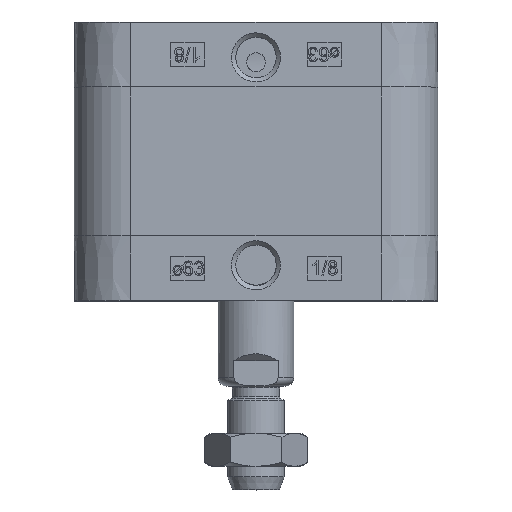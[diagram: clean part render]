
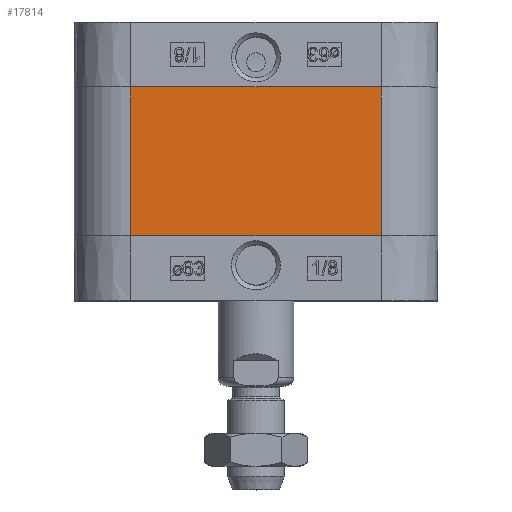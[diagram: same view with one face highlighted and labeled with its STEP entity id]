
A CAD part, top view. The second image highlights one B-rep face of the part: STEP entity #17814.
In plain terms, the highlighted planar face has unit normal (0, 0, 1) as drawn and (-1, 0, 0) by its records, which use the part's own axes.
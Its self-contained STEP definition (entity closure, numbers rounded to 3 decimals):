
#1062=PLANE('',#18960);
#1992=LINE('',#27608,#3086);
#2046=LINE('',#27832,#3140);
#2100=LINE('',#28057,#3194);
#2101=LINE('',#28058,#3195);
#3086=VECTOR('',#21724,1000.);
#3140=VECTOR('',#21896,1000.);
#3194=VECTOR('',#22068,1000.);
#3195=VECTOR('',#22069,1000.);
#6568=ORIENTED_EDGE('',*,*,#8627,.T.);
#6569=ORIENTED_EDGE('',*,*,#8851,.F.);
#6570=ORIENTED_EDGE('',*,*,#8739,.T.);
#6571=ORIENTED_EDGE('',*,*,#8852,.T.);
#8627=EDGE_CURVE('',#10067,#10065,#1992,.T.);
#8739=EDGE_CURVE('',#10178,#10179,#2046,.T.);
#8851=EDGE_CURVE('',#10178,#10065,#2100,.T.);
#8852=EDGE_CURVE('',#10179,#10067,#2101,.T.);
#10065=VERTEX_POINT('',#27606);
#10067=VERTEX_POINT('',#27609);
#10178=VERTEX_POINT('',#27833);
#10179=VERTEX_POINT('',#27834);
#11554=EDGE_LOOP('',(#6568,#6569,#6570,#6571));
#12492=FACE_BOUND('',#11554,.T.);
#17814=ADVANCED_FACE('',(#12492),#1062,.T.);
#18960=AXIS2_PLACEMENT_3D('',#28056,#22066,#22067);
#21724=DIRECTION('',(0.,1.,0.));
#21896=DIRECTION('',(0.,-1.,0.));
#22066=DIRECTION('',(-1.,0.,0.));
#22067=DIRECTION('',(0.,0.,1.));
#22068=DIRECTION('',(0.,0.,1.));
#22069=DIRECTION('',(0.,0.,1.));
#27606=CARTESIAN_POINT('',(-38.5,26.5,31.5));
#27608=CARTESIAN_POINT('',(-38.5,26.5,31.5));
#27609=CARTESIAN_POINT('',(-38.5,-26.5,31.5));
#27832=CARTESIAN_POINT('',(-38.5,26.5,0.));
#27833=CARTESIAN_POINT('',(-38.5,26.5,0.));
#27834=CARTESIAN_POINT('',(-38.5,-26.5,0.));
#28056=CARTESIAN_POINT('',(-38.5,-26.5,0.));
#28057=CARTESIAN_POINT('',(-38.5,26.5,0.));
#28058=CARTESIAN_POINT('',(-38.5,-26.5,0.));
